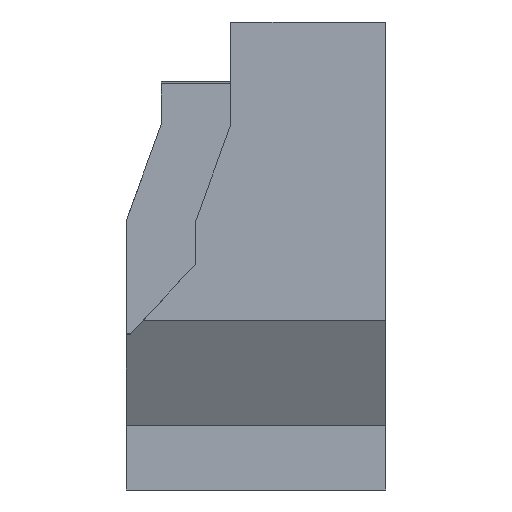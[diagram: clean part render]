
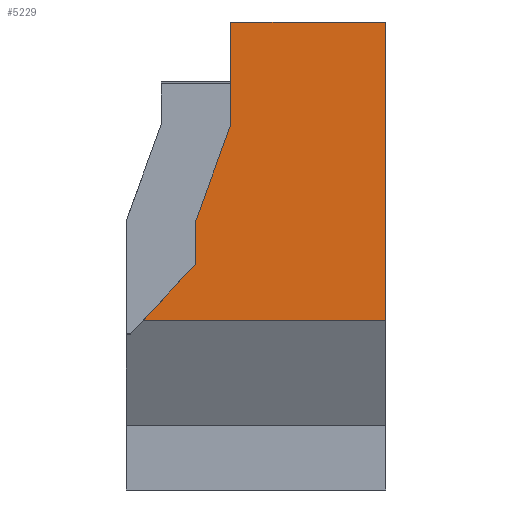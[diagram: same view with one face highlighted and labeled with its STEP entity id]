
A CAD part, front view. The second image highlights one B-rep face of the part: STEP entity #5229.
In plain terms, the highlighted planar face has unit normal (0, -1, 0).
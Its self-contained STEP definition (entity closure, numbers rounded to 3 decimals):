
#32 = PLANE('',#33);
#33 = AXIS2_PLACEMENT_3D('',#34,#35,#36);
#34 = CARTESIAN_POINT('',(15.,-190.,-0.1));
#35 = DIRECTION('',(1.,0.,-0.));
#36 = DIRECTION('',(0.,0.,1.));
#107 = VERTEX_POINT('',#108);
#108 = CARTESIAN_POINT('',(15.,-179.2,26.9));
#121 = PLANE('',#122);
#122 = AXIS2_PLACEMENT_3D('',#123,#124,#125);
#123 = CARTESIAN_POINT('',(0.,-3.046,26.9));
#124 = DIRECTION('',(0.,0.,1.));
#125 = DIRECTION('',(1.,0.,-0.));
#132 = EDGE_CURVE('',#133,#107,#135,.T.);
#133 = VERTEX_POINT('',#134);
#134 = CARTESIAN_POINT('',(15.,-179.2,9.762));
#135 = SURFACE_CURVE('',#136,(#140,#146),.PCURVE_S1.);
#136 = LINE('',#137,#138);
#137 = CARTESIAN_POINT('',(15.,-179.2,12.425));
#138 = VECTOR('',#139,1.);
#139 = DIRECTION('',(0.,-0.,1.));
#140 = PCURVE('',#32,#141);
#141 = DEFINITIONAL_REPRESENTATION('',(#142),#145);
#142 = B_SPLINE_CURVE_WITH_KNOTS('',1,(#143,#144),.UNSPECIFIED.,.F.,.F.,
  (2,2),(-2.663,14.475),.PIECEWISE_BEZIER_KNOTS.);
#143 = CARTESIAN_POINT('',(9.862,-10.8));
#144 = CARTESIAN_POINT('',(27.,-10.8));
#145 = ( GEOMETRIC_REPRESENTATION_CONTEXT(2) 
PARAMETRIC_REPRESENTATION_CONTEXT() REPRESENTATION_CONTEXT('2D SPACE',''
  ) );
#146 = PCURVE('',#147,#152);
#147 = PLANE('',#148);
#148 = AXIS2_PLACEMENT_3D('',#149,#150,#151);
#149 = CARTESIAN_POINT('',(-195.2,-179.2,24.95));
#150 = DIRECTION('',(0.,1.,0.));
#151 = DIRECTION('',(1.,0.,0.));
#152 = DEFINITIONAL_REPRESENTATION('',(#153),#156);
#153 = B_SPLINE_CURVE_WITH_KNOTS('',1,(#154,#155),.UNSPECIFIED.,.F.,.F.,
  (2,2),(-2.663,14.475),.PIECEWISE_BEZIER_KNOTS.);
#154 = CARTESIAN_POINT('',(210.2,15.188));
#155 = CARTESIAN_POINT('',(210.2,-1.95));
#156 = ( GEOMETRIC_REPRESENTATION_CONTEXT(2) 
PARAMETRIC_REPRESENTATION_CONTEXT() REPRESENTATION_CONTEXT('2D SPACE',''
  ) );
#173 = PLANE('',#174);
#174 = AXIS2_PLACEMENT_3D('',#175,#176,#177);
#175 = CARTESIAN_POINT('',(0.,-177.45,6.731));
#176 = DIRECTION('',(0.,-0.866,-0.5));
#177 = DIRECTION('',(1.,0.,0.));
#5108 = EDGE_CURVE('',#5109,#133,#5111,.T.);
#5109 = VERTEX_POINT('',#5110);
#5110 = CARTESIAN_POINT('',(1.065,-179.2,9.762));
#5111 = SURFACE_CURVE('',#5112,(#5116,#5123),.PCURVE_S1.);
#5112 = LINE('',#5113,#5114);
#5113 = CARTESIAN_POINT('',(-195.2,-179.2,9.762));
#5114 = VECTOR('',#5115,1.);
#5115 = DIRECTION('',(1.,0.,0.));
#5116 = PCURVE('',#173,#5117);
#5117 = DEFINITIONAL_REPRESENTATION('',(#5118),#5122);
#5118 = LINE('',#5119,#5120);
#5119 = CARTESIAN_POINT('',(-195.2,3.5));
#5120 = VECTOR('',#5121,1.);
#5121 = DIRECTION('',(1.,0.));
#5122 = ( GEOMETRIC_REPRESENTATION_CONTEXT(2) 
PARAMETRIC_REPRESENTATION_CONTEXT() REPRESENTATION_CONTEXT('2D SPACE',''
  ) );
#5123 = PCURVE('',#147,#5124);
#5124 = DEFINITIONAL_REPRESENTATION('',(#5125),#5129);
#5125 = LINE('',#5126,#5127);
#5126 = CARTESIAN_POINT('',(0.,15.188));
#5127 = VECTOR('',#5128,1.);
#5128 = DIRECTION('',(1.,0.));
#5129 = ( GEOMETRIC_REPRESENTATION_CONTEXT(2) 
PARAMETRIC_REPRESENTATION_CONTEXT() REPRESENTATION_CONTEXT('2D SPACE',''
  ) );
#5146 = PLANE('',#5147);
#5147 = AXIS2_PLACEMENT_3D('',#5148,#5149,#5150);
#5148 = CARTESIAN_POINT('',(4.1,-177.5,13.));
#5149 = DIRECTION('',(-0.73,0.,0.684));
#5150 = DIRECTION('',(0.,-1.,0.));
#5229 = ADVANCED_FACE('',(#5230),#147,.F.);
#5230 = FACE_BOUND('',#5231,.F.);
#5231 = EDGE_LOOP('',(#5232,#5233,#5234,#5255,#5281,#5307,#5333));
#5232 = ORIENTED_EDGE('',*,*,#132,.F.);
#5233 = ORIENTED_EDGE('',*,*,#5108,.F.);
#5234 = ORIENTED_EDGE('',*,*,#5235,.T.);
#5235 = EDGE_CURVE('',#5109,#5236,#5238,.T.);
#5236 = VERTEX_POINT('',#5237);
#5237 = CARTESIAN_POINT('',(4.1,-179.2,13.));
#5238 = SURFACE_CURVE('',#5239,(#5243,#5249),.PCURVE_S1.);
#5239 = LINE('',#5240,#5241);
#5240 = CARTESIAN_POINT('',(-39.533,-179.2,-33.541));
#5241 = VECTOR('',#5242,1.);
#5242 = DIRECTION('',(0.684,-0.,0.73));
#5243 = PCURVE('',#147,#5244);
#5244 = DEFINITIONAL_REPRESENTATION('',(#5245),#5248);
#5245 = B_SPLINE_CURVE_WITH_KNOTS('',1,(#5246,#5247),.UNSPECIFIED.,.F.,
  .F.,(2,2),(59.358,63.796),.PIECEWISE_BEZIER_KNOTS.);
#5246 = CARTESIAN_POINT('',(196.265,15.188));
#5247 = CARTESIAN_POINT('',(199.3,11.95));
#5248 = ( GEOMETRIC_REPRESENTATION_CONTEXT(2) 
PARAMETRIC_REPRESENTATION_CONTEXT() REPRESENTATION_CONTEXT('2D SPACE',''
  ) );
#5249 = PCURVE('',#5146,#5250);
#5250 = DEFINITIONAL_REPRESENTATION('',(#5251),#5254);
#5251 = B_SPLINE_CURVE_WITH_KNOTS('',1,(#5252,#5253),.UNSPECIFIED.,.F.,
  .F.,(2,2),(59.358,63.796),.PIECEWISE_BEZIER_KNOTS.);
#5252 = CARTESIAN_POINT('',(1.7,-4.438));
#5253 = CARTESIAN_POINT('',(1.7,0.));
#5254 = ( GEOMETRIC_REPRESENTATION_CONTEXT(2) 
PARAMETRIC_REPRESENTATION_CONTEXT() REPRESENTATION_CONTEXT('2D SPACE',''
  ) );
#5255 = ORIENTED_EDGE('',*,*,#5256,.T.);
#5256 = EDGE_CURVE('',#5236,#5257,#5259,.T.);
#5257 = VERTEX_POINT('',#5258);
#5258 = CARTESIAN_POINT('',(4.1,-179.2,15.5));
#5259 = SURFACE_CURVE('',#5260,(#5264,#5270),.PCURVE_S1.);
#5260 = LINE('',#5261,#5262);
#5261 = CARTESIAN_POINT('',(4.1,-179.2,20.225));
#5262 = VECTOR('',#5263,1.);
#5263 = DIRECTION('',(0.,-0.,1.));
#5264 = PCURVE('',#147,#5265);
#5265 = DEFINITIONAL_REPRESENTATION('',(#5266),#5269);
#5266 = B_SPLINE_CURVE_WITH_KNOTS('',1,(#5267,#5268),.UNSPECIFIED.,.F.,
  .F.,(2,2),(-7.225,-4.725),.PIECEWISE_BEZIER_KNOTS.);
#5267 = CARTESIAN_POINT('',(199.3,11.95));
#5268 = CARTESIAN_POINT('',(199.3,9.45));
#5269 = ( GEOMETRIC_REPRESENTATION_CONTEXT(2) 
PARAMETRIC_REPRESENTATION_CONTEXT() REPRESENTATION_CONTEXT('2D SPACE',''
  ) );
#5270 = PCURVE('',#5271,#5276);
#5271 = PLANE('',#5272);
#5272 = AXIS2_PLACEMENT_3D('',#5273,#5274,#5275);
#5273 = CARTESIAN_POINT('',(4.1,-177.5,15.5));
#5274 = DIRECTION('',(-1.,0.,0.));
#5275 = DIRECTION('',(0.,-1.,0.));
#5276 = DEFINITIONAL_REPRESENTATION('',(#5277),#5280);
#5277 = B_SPLINE_CURVE_WITH_KNOTS('',1,(#5278,#5279),.UNSPECIFIED.,.F.,
  .F.,(2,2),(-7.225,-4.725),.PIECEWISE_BEZIER_KNOTS.);
#5278 = CARTESIAN_POINT('',(1.7,-2.5));
#5279 = CARTESIAN_POINT('',(1.7,0.));
#5280 = ( GEOMETRIC_REPRESENTATION_CONTEXT(2) 
PARAMETRIC_REPRESENTATION_CONTEXT() REPRESENTATION_CONTEXT('2D SPACE',''
  ) );
#5281 = ORIENTED_EDGE('',*,*,#5282,.T.);
#5282 = EDGE_CURVE('',#5257,#5283,#5285,.T.);
#5283 = VERTEX_POINT('',#5284);
#5284 = CARTESIAN_POINT('',(6.1,-179.2,21.));
#5285 = SURFACE_CURVE('',#5286,(#5290,#5296),.PCURVE_S1.);
#5286 = LINE('',#5287,#5288);
#5287 = CARTESIAN_POINT('',(-5.02,-179.2,-9.581));
#5288 = VECTOR('',#5289,1.);
#5289 = DIRECTION('',(0.342,-0.,0.94));
#5290 = PCURVE('',#147,#5291);
#5291 = DEFINITIONAL_REPRESENTATION('',(#5292),#5295);
#5292 = B_SPLINE_CURVE_WITH_KNOTS('',1,(#5293,#5294),.UNSPECIFIED.,.F.,
  .F.,(2,2),(26.688,32.54),.PIECEWISE_BEZIER_KNOTS.);
#5293 = CARTESIAN_POINT('',(199.3,9.45));
#5294 = CARTESIAN_POINT('',(201.3,3.95));
#5295 = ( GEOMETRIC_REPRESENTATION_CONTEXT(2) 
PARAMETRIC_REPRESENTATION_CONTEXT() REPRESENTATION_CONTEXT('2D SPACE',''
  ) );
#5296 = PCURVE('',#5297,#5302);
#5297 = PLANE('',#5298);
#5298 = AXIS2_PLACEMENT_3D('',#5299,#5300,#5301);
#5299 = CARTESIAN_POINT('',(6.1,-177.5,21.));
#5300 = DIRECTION('',(-0.94,0.,0.342));
#5301 = DIRECTION('',(0.,-1.,0.));
#5302 = DEFINITIONAL_REPRESENTATION('',(#5303),#5306);
#5303 = B_SPLINE_CURVE_WITH_KNOTS('',1,(#5304,#5305),.UNSPECIFIED.,.F.,
  .F.,(2,2),(26.688,32.54),.PIECEWISE_BEZIER_KNOTS.);
#5304 = CARTESIAN_POINT('',(1.7,-5.852));
#5305 = CARTESIAN_POINT('',(1.7,0.));
#5306 = ( GEOMETRIC_REPRESENTATION_CONTEXT(2) 
PARAMETRIC_REPRESENTATION_CONTEXT() REPRESENTATION_CONTEXT('2D SPACE',''
  ) );
#5307 = ORIENTED_EDGE('',*,*,#5308,.T.);
#5308 = EDGE_CURVE('',#5283,#5309,#5311,.T.);
#5309 = VERTEX_POINT('',#5310);
#5310 = CARTESIAN_POINT('',(6.1,-179.2,26.9));
#5311 = SURFACE_CURVE('',#5312,(#5316,#5322),.PCURVE_S1.);
#5312 = LINE('',#5313,#5314);
#5313 = CARTESIAN_POINT('',(6.1,-179.2,24.15));
#5314 = VECTOR('',#5315,1.);
#5315 = DIRECTION('',(0.,-0.,1.));
#5316 = PCURVE('',#147,#5317);
#5317 = DEFINITIONAL_REPRESENTATION('',(#5318),#5321);
#5318 = B_SPLINE_CURVE_WITH_KNOTS('',1,(#5319,#5320),.UNSPECIFIED.,.F.,
  .F.,(2,2),(-3.15,2.75),.PIECEWISE_BEZIER_KNOTS.);
#5319 = CARTESIAN_POINT('',(201.3,3.95));
#5320 = CARTESIAN_POINT('',(201.3,-1.95));
#5321 = ( GEOMETRIC_REPRESENTATION_CONTEXT(2) 
PARAMETRIC_REPRESENTATION_CONTEXT() REPRESENTATION_CONTEXT('2D SPACE',''
  ) );
#5322 = PCURVE('',#5323,#5328);
#5323 = PLANE('',#5324);
#5324 = AXIS2_PLACEMENT_3D('',#5325,#5326,#5327);
#5325 = CARTESIAN_POINT('',(6.1,-177.5,23.35));
#5326 = DIRECTION('',(-1.,0.,0.));
#5327 = DIRECTION('',(0.,-1.,0.));
#5328 = DEFINITIONAL_REPRESENTATION('',(#5329),#5332);
#5329 = B_SPLINE_CURVE_WITH_KNOTS('',1,(#5330,#5331),.UNSPECIFIED.,.F.,
  .F.,(2,2),(-3.15,2.75),.PIECEWISE_BEZIER_KNOTS.);
#5330 = CARTESIAN_POINT('',(1.7,-2.35));
#5331 = CARTESIAN_POINT('',(1.7,3.55));
#5332 = ( GEOMETRIC_REPRESENTATION_CONTEXT(2) 
PARAMETRIC_REPRESENTATION_CONTEXT() REPRESENTATION_CONTEXT('2D SPACE',''
  ) );
#5333 = ORIENTED_EDGE('',*,*,#5334,.T.);
#5334 = EDGE_CURVE('',#5309,#107,#5335,.T.);
#5335 = SURFACE_CURVE('',#5336,(#5340,#5347),.PCURVE_S1.);
#5336 = LINE('',#5337,#5338);
#5337 = CARTESIAN_POINT('',(-195.2,-179.2,26.9));
#5338 = VECTOR('',#5339,1.);
#5339 = DIRECTION('',(1.,0.,0.));
#5340 = PCURVE('',#147,#5341);
#5341 = DEFINITIONAL_REPRESENTATION('',(#5342),#5346);
#5342 = LINE('',#5343,#5344);
#5343 = CARTESIAN_POINT('',(0.,-1.95));
#5344 = VECTOR('',#5345,1.);
#5345 = DIRECTION('',(1.,0.));
#5346 = ( GEOMETRIC_REPRESENTATION_CONTEXT(2) 
PARAMETRIC_REPRESENTATION_CONTEXT() REPRESENTATION_CONTEXT('2D SPACE',''
  ) );
#5347 = PCURVE('',#121,#5348);
#5348 = DEFINITIONAL_REPRESENTATION('',(#5349),#5353);
#5349 = LINE('',#5350,#5351);
#5350 = CARTESIAN_POINT('',(-195.2,-176.154));
#5351 = VECTOR('',#5352,1.);
#5352 = DIRECTION('',(1.,0.));
#5353 = ( GEOMETRIC_REPRESENTATION_CONTEXT(2) 
PARAMETRIC_REPRESENTATION_CONTEXT() REPRESENTATION_CONTEXT('2D SPACE',''
  ) );
